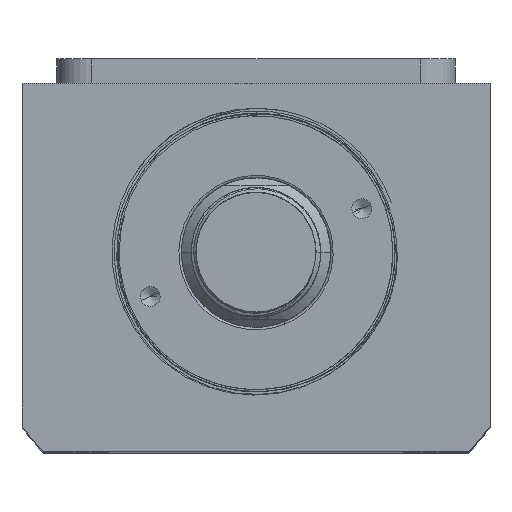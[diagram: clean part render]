
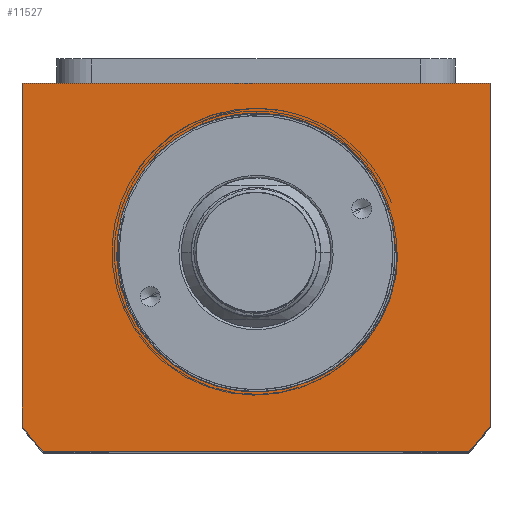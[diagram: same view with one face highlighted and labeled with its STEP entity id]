
A CAD part, top view. The second image highlights one B-rep face of the part: STEP entity #11527.
In plain terms, the highlighted planar face has unit normal (0, 0, 1).
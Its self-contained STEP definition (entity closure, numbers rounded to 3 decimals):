
#39 = CARTESIAN_POINT ( 'NONE',  ( 12.831, -24.945, 82.5 ) ) ;
#412 = EDGE_CURVE ( 'NONE', #5016, #10598, #4018, .T. ) ;
#876 = CARTESIAN_POINT ( 'NONE',  ( -47., -34.832, 82.5 ) ) ;
#928 = DIRECTION ( 'NONE',  ( 1., 0., 0. ) ) ;
#1148 = ORIENTED_EDGE ( 'NONE', *, *, #13159, .T. ) ;
#1427 = CARTESIAN_POINT ( 'NONE',  ( 42.688, -40., 82.5 ) ) ;
#1650 = CARTESIAN_POINT ( 'NONE',  ( 0., 0., 82.5 ) ) ;
#1999 = VERTEX_POINT ( 'NONE', #2215 ) ;
#2215 = CARTESIAN_POINT ( 'NONE',  ( 42.688, -40., 82.5 ) ) ;
#2607 = FACE_BOUND ( 'NONE', #3503, .T. ) ;
#2913 = ORIENTED_EDGE ( 'NONE', *, *, #16213, .T. ) ;
#3082 = CARTESIAN_POINT ( 'NONE',  ( 15.3, -23.593, 82.5 ) ) ;
#3143 = ORIENTED_EDGE ( 'NONE', *, *, #412, .T. ) ;
#3147 = CARTESIAN_POINT ( 'NONE',  ( 10.232, -26.064, 82.5 ) ) ;
#3503 = EDGE_LOOP ( 'NONE', ( #14886, #7892, #3143 ) ) ;
#4018 = CIRCLE ( 'NONE', #14018, 28. ) ;
#4148 = CARTESIAN_POINT ( 'NONE',  ( 28.485, -0.71, 82.5 ) ) ;
#4351 = DIRECTION ( 'NONE',  ( -1., 0., 0. ) ) ;
#4582 = CARTESIAN_POINT ( 'NONE',  ( 28.233, -3.538, 82.5 ) ) ;
#4638 = CARTESIAN_POINT ( 'NONE',  ( 28.323, -2.832, 82.5 ) ) ;
#4704 = CARTESIAN_POINT ( 'NONE',  ( 24.898, -13.504, 82.5 ) ) ;
#4707 = CIRCLE ( 'NONE', #5902, 58.5 ) ;
#5016 = VERTEX_POINT ( 'NONE', #18234 ) ;
#5144 = LINE ( 'NONE', #7931, #5611 ) ;
#5611 = VECTOR ( 'NONE', #8347, 1000. ) ;
#5792 = CARTESIAN_POINT ( 'NONE',  ( -47., 34., 82.5 ) ) ;
#5869 = DIRECTION ( 'NONE',  ( 1., 0., 0. ) ) ;
#5902 = AXIS2_PLACEMENT_3D ( 'NONE', #11331, #6887, #18875 ) ;
#6068 = ORIENTED_EDGE ( 'NONE', *, *, #11053, .T. ) ;
#6116 = FACE_OUTER_BOUND ( 'NONE', #11716, .T. ) ;
#6170 = CARTESIAN_POINT ( 'NONE',  ( 18.667, -21.077, 82.5 ) ) ;
#6778 = VECTOR ( 'NONE', #8185, 1000. ) ;
#6887 = DIRECTION ( 'NONE',  ( 0., 0., 1. ) ) ;
#6930 = CARTESIAN_POINT ( 'NONE',  ( 0., 0., 82.5 ) ) ;
#7543 = CARTESIAN_POINT ( 'NONE',  ( 10.89, -25.816, 82.5 ) ) ;
#7560 = CARTESIAN_POINT ( 'NONE',  ( 28.495, 0., 82.5 ) ) ;
#7668 = CARTESIAN_POINT ( 'NONE',  ( 11.542, -25.544, 82.5 ) ) ;
#7769 = VERTEX_POINT ( 'NONE', #876 ) ;
#7892 = ORIENTED_EDGE ( 'NONE', *, *, #10707, .T. ) ;
#7931 = CARTESIAN_POINT ( 'NONE',  ( -47., -34.832, 82.5 ) ) ;
#8185 = DIRECTION ( 'NONE',  ( -1., 0., 0. ) ) ;
#8210 = DIRECTION ( 'NONE',  ( 1., 0., 0. ) ) ;
#8294 = DIRECTION ( 'NONE',  ( 0., 0., 1. ) ) ;
#8347 = DIRECTION ( 'NONE',  ( 0., -1., 0. ) ) ;
#8709 = ORIENTED_EDGE ( 'NONE', *, *, #16034, .T. ) ;
#8972 = CARTESIAN_POINT ( 'NONE',  ( 0., 0., 82.5 ) ) ;
#8982 = CARTESIAN_POINT ( 'NONE',  ( 26.694, -9.657, 82.5 ) ) ;
#9229 = CARTESIAN_POINT ( 'NONE',  ( 19.714, -20.129, 82.5 ) ) ;
#9298 = VECTOR ( 'NONE', #4351, 1000. ) ;
#9641 = CARTESIAN_POINT ( 'NONE',  ( 0., 0., 82.5 ) ) ;
#9896 = CARTESIAN_POINT ( 'NONE',  ( -42.688, -40., 82.5 ) ) ;
#10165 = CARTESIAN_POINT ( 'NONE',  ( 28.495, 0., 82.5 ) ) ;
#10234 = CARTESIAN_POINT ( 'NONE',  ( 28., 0., 82.5 ) ) ;
#10300 = VECTOR ( 'NONE', #15612, 1000. ) ;
#10575 = PLANE ( 'NONE',  #19352 ) ;
#10598 = VERTEX_POINT ( 'NONE', #10234 ) ;
#10611 = CARTESIAN_POINT ( 'NONE',  ( 22.571, -17.007, 82.5 ) ) ;
#10630 = CARTESIAN_POINT ( 'NONE',  ( -47., 34., 82.5 ) ) ;
#10707 = EDGE_CURVE ( 'NONE', #15053, #5016, #11494, .T. ) ;
#10747 = LINE ( 'NONE', #8972, #6778 ) ;
#11053 = EDGE_CURVE ( 'NONE', #7769, #18040, #4707, .T. ) ;
#11331 = CARTESIAN_POINT ( 'NONE',  ( 0., 0., 82.5 ) ) ;
#11415 = LINE ( 'NONE', #1427, #13548 ) ;
#11494 = B_SPLINE_CURVE_WITH_KNOTS ( 'NONE', 3,
 ( #10165, #4148, #14971, #4638, #4582, #17973, #15028, #8982, #16718, #4704, #15087, #10611, #13538, #18226, #9229, #6170, #15205, #15148, #3082, #16536, #39, #7668, #7543, #3147 ),
 .UNSPECIFIED., .F., .F.,
 ( 4, 2, 2, 2, 2, 2, 2, 2, 2, 2, 2, 4 ),
 ( 0., 0.002, 0.004, 0.009, 0.013, 0.017, 0.021, 0.023, 0.026, 0.03, 0.032, 0.034 ),
 .UNSPECIFIED. ) ;
#11527 = ADVANCED_FACE ( 'NONE', ( #2607, #6116 ), #10575, .T. ) ;
#11716 = EDGE_LOOP ( 'NONE', ( #8709, #1148, #6068, #2913, #12604, #14190 ) ) ;
#11853 = CIRCLE ( 'NONE', #13624, 58.5 ) ;
#12419 = CARTESIAN_POINT ( 'NONE',  ( 47., 34., 82.5 ) ) ;
#12555 = EDGE_CURVE ( 'NONE', #19291, #15213, #18524, .T. ) ;
#12604 = ORIENTED_EDGE ( 'NONE', *, *, #19369, .T. ) ;
#13159 = EDGE_CURVE ( 'NONE', #16657, #7769, #5144, .T. ) ;
#13430 = DIRECTION ( 'NONE',  ( 0., 0., 1. ) ) ;
#13538 = CARTESIAN_POINT ( 'NONE',  ( 21.684, -18.094, 82.5 ) ) ;
#13548 = VECTOR ( 'NONE', #16394, 1000. ) ;
#13624 = AXIS2_PLACEMENT_3D ( 'NONE', #6930, #8294, #928 ) ;
#14018 = AXIS2_PLACEMENT_3D ( 'NONE', #9641, #14193, #8210 ) ;
#14067 = EDGE_CURVE ( 'NONE', #15053, #10598, #10747, .T. ) ;
#14124 = CARTESIAN_POINT ( 'NONE',  ( 47., 34., 82.5 ) ) ;
#14190 = ORIENTED_EDGE ( 'NONE', *, *, #12555, .T. ) ;
#14193 = DIRECTION ( 'NONE',  ( 0., 0., -1. ) ) ;
#14886 = ORIENTED_EDGE ( 'NONE', *, *, #14067, .F. ) ;
#14971 = CARTESIAN_POINT ( 'NONE',  ( 28.449, -1.419, 82.5 ) ) ;
#15028 = CARTESIAN_POINT ( 'NONE',  ( 27.555, -6.99, 82.5 ) ) ;
#15053 = VERTEX_POINT ( 'NONE', #7560 ) ;
#15087 = CARTESIAN_POINT ( 'NONE',  ( 24.178, -14.712, 82.5 ) ) ;
#15148 = CARTESIAN_POINT ( 'NONE',  ( 16.467, -22.819, 82.5 ) ) ;
#15176 = LINE ( 'NONE', #5792, #9298 ) ;
#15205 = CARTESIAN_POINT ( 'NONE',  ( 18.129, -21.529, 82.5 ) ) ;
#15213 = VERTEX_POINT ( 'NONE', #12419 ) ;
#15612 = DIRECTION ( 'NONE',  ( 0., 1., 0. ) ) ;
#16034 = EDGE_CURVE ( 'NONE', #15213, #16657, #15176, .T. ) ;
#16213 = EDGE_CURVE ( 'NONE', #18040, #1999, #11415, .T. ) ;
#16394 = DIRECTION ( 'NONE',  ( 1., 0., 0. ) ) ;
#16536 = CARTESIAN_POINT ( 'NONE',  ( 13.459, -24.624, 82.5 ) ) ;
#16657 = VERTEX_POINT ( 'NONE', #10630 ) ;
#16718 = CARTESIAN_POINT ( 'NONE',  ( 26.163, -10.961, 82.5 ) ) ;
#17973 = CARTESIAN_POINT ( 'NONE',  ( 27.887, -5.628, 82.5 ) ) ;
#18040 = VERTEX_POINT ( 'NONE', #9896 ) ;
#18226 = CARTESIAN_POINT ( 'NONE',  ( 20.224, -19.631, 82.5 ) ) ;
#18234 = CARTESIAN_POINT ( 'NONE',  ( 10.232, -26.064, 82.5 ) ) ;
#18524 = LINE ( 'NONE', #14124, #10300 ) ;
#18853 = CARTESIAN_POINT ( 'NONE',  ( 47., -34.832, 82.5 ) ) ;
#18875 = DIRECTION ( 'NONE',  ( 1., 0., 0. ) ) ;
#19291 = VERTEX_POINT ( 'NONE', #18853 ) ;
#19352 = AXIS2_PLACEMENT_3D ( 'NONE', #1650, #13430, #5869 ) ;
#19369 = EDGE_CURVE ( 'NONE', #1999, #19291, #11853, .T. ) ;
